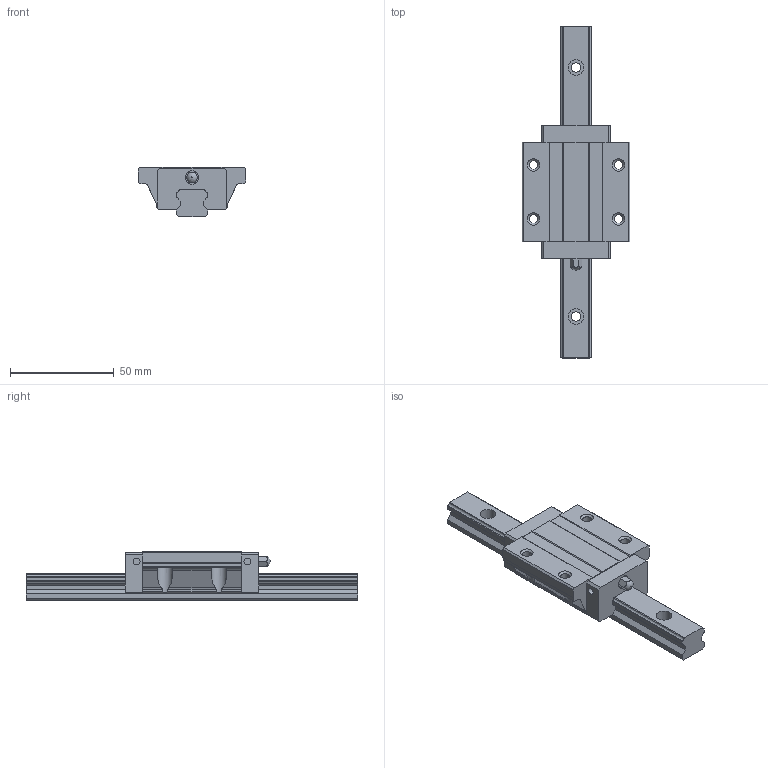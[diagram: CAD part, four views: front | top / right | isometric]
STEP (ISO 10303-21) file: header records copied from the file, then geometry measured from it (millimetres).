
FILE_DESCRIPTION(/* description */ (''),/* implementation_level */ '2;1');
FILE_NAME(/* name */ 'SME15-EB',/* time_stamp */ '2009-06-12T14:17:06+08:00',/* author */ (''),/* organization */ (''),/* preprocessor_version */ 'ST-DEVELOPER v11',/* originating_system */ 'UGS - NX 5.0',/* authorisation */ '');
FILE_SCHEMA (('CONFIG_CONTROL_DESIGN'));
Length unit declared in the file: millimetre
Products named in the file (1): jill3C1A424o
Bounding box: 52 x 160 x 24 mm (x, y, z)
Volume: 70749.9 mm3; surface area: 22123.4 mm2
Topology: 2 solids, 3 shells, 172 faces, 478 edges, 320 vertices
Faces by surface type: plane 104, cylinder 60, cone 4, sphere 2, bspline 2
Full cylindrical faces by diameter (mm): 3.3 x4, 4 x7, 4.2 x4, 4.5 x3, 6.5 x2, 7.5 x3
Entity records: 7010 total; most frequent: CARTESIAN_POINT 2753, DIRECTION 854, ORIENTED_EDGE 844, EDGE_CURVE 422, VERTEX_POINT 294, LINE 288, VECTOR 288, AXIS2_PLACEMENT_3D 283
